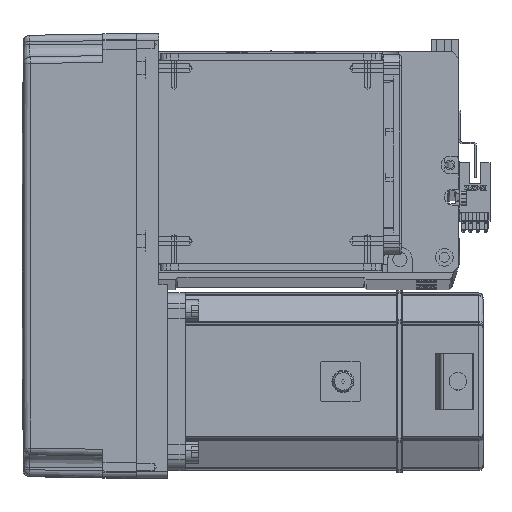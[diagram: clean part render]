
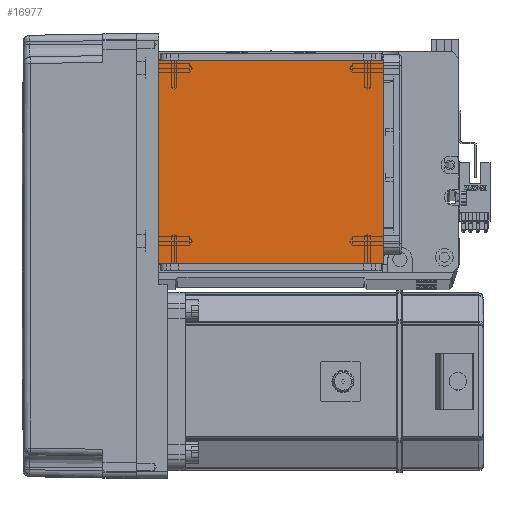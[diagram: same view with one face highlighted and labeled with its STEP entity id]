
A CAD part, top view. The second image highlights one B-rep face of the part: STEP entity #16977.
In plain terms, the highlighted planar face has unit normal (0, 0, 1).
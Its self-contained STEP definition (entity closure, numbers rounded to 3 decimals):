
#1225 = CARTESIAN_POINT ( 'NONE',  ( -70.004, 111.5, 115. ) ) ;
#1649 = CARTESIAN_POINT ( 'NONE',  ( 50.5, 20., 115. ) ) ;
#5124 = FACE_OUTER_BOUND ( 'NONE', #61946, .T. ) ;
#6306 = EDGE_CURVE ( 'NONE', #62793, #13011, #60291, .T. ) ;
#10540 = VECTOR ( 'NONE', #46537, 1000. ) ;
#13011 = VERTEX_POINT ( 'NONE', #51391 ) ;
#15098 = CARTESIAN_POINT ( 'NONE',  ( 50.5, 122., 115. ) ) ;
#15498 = CARTESIAN_POINT ( 'NONE',  ( -50.5, 111.5, 115. ) ) ;
#16977 = ADVANCED_FACE ( 'NONE', ( #5124 ), #25562, .T. ) ;
#18388 = LINE ( 'NONE', #53550, #36209 ) ;
#20161 = DIRECTION ( 'NONE',  ( 0., 0., 1. ) ) ;
#21243 = DIRECTION ( 'NONE',  ( -1., 0., 0. ) ) ;
#22959 = DIRECTION ( 'NONE',  ( 0., -1., 0. ) ) ;
#25322 = LINE ( 'NONE', #1225, #10540 ) ;
#25562 = PLANE ( 'NONE',  #61493 ) ;
#26008 = DIRECTION ( 'NONE',  ( 1., 0., 0. ) ) ;
#27808 = EDGE_CURVE ( 'NONE', #41810, #54875, #25322, .T. ) ;
#30607 = CARTESIAN_POINT ( 'NONE',  ( 50.5, 111.5, 115. ) ) ;
#34898 = ORIENTED_EDGE ( 'NONE', *, *, #6306, .F. ) ;
#35140 = EDGE_CURVE ( 'NONE', #41810, #13011, #18388, .T. ) ;
#35995 = ORIENTED_EDGE ( 'NONE', *, *, #27808, .F. ) ;
#36209 = VECTOR ( 'NONE', #22959, 1000. ) ;
#41810 = VERTEX_POINT ( 'NONE', #15498 ) ;
#46269 = VECTOR ( 'NONE', #21243, 1000. ) ;
#46537 = DIRECTION ( 'NONE',  ( 1., 0., 0. ) ) ;
#47408 = VECTOR ( 'NONE', #55019, 1000. ) ;
#49006 = LINE ( 'NONE', #15098, #47408 ) ;
#51391 = CARTESIAN_POINT ( 'NONE',  ( -50.5, 20., 115. ) ) ;
#51555 = EDGE_CURVE ( 'NONE', #62793, #54875, #49006, .T. ) ;
#53550 = CARTESIAN_POINT ( 'NONE',  ( -50.5, 122., 115. ) ) ;
#53626 = ORIENTED_EDGE ( 'NONE', *, *, #35140, .T. ) ;
#54875 = VERTEX_POINT ( 'NONE', #30607 ) ;
#55019 = DIRECTION ( 'NONE',  ( 0., 1., 0. ) ) ;
#55080 = CARTESIAN_POINT ( 'NONE',  ( 0., 0., 115. ) ) ;
#60291 = LINE ( 'NONE', #61175, #46269 ) ;
#61175 = CARTESIAN_POINT ( 'NONE',  ( -70.004, 20., 115. ) ) ;
#61493 = AXIS2_PLACEMENT_3D ( 'NONE', #55080, #20161, #26008 ) ;
#61674 = ORIENTED_EDGE ( 'NONE', *, *, #51555, .T. ) ;
#61946 = EDGE_LOOP ( 'NONE', ( #35995, #53626, #34898, #61674 ) ) ;
#62793 = VERTEX_POINT ( 'NONE', #1649 ) ;
